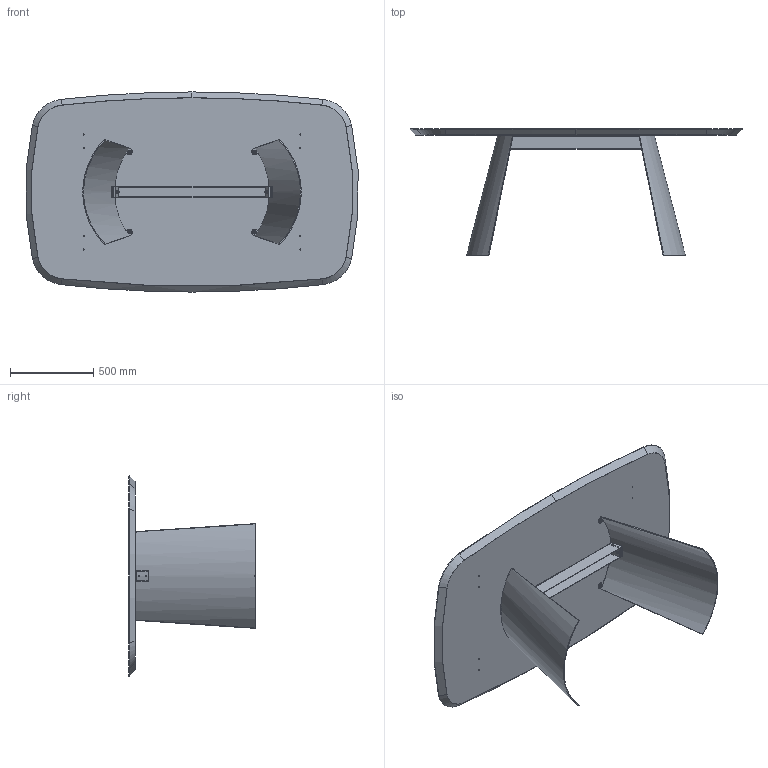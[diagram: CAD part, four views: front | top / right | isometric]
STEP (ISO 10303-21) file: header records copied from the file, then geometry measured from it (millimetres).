
FILE_DESCRIPTION (( 'STEP AP203' ), '1' );
FILE_NAME ('DN41W.STEP', '2024-08-07T15:04:48', ( '' ), ( '' ), 'SwSTEP 2.0', 'SolidWorks 2022', '' );
FILE_SCHEMA (( 'CONFIG_CONTROL_DESIGN' ));
Length unit declared in the file: millimetre
Products named in the file (14): rondella M8X24; feltro Ø12x3; GRANO M8X35_barra; M8xXXmm_M8x20mm; DN41W; DNB300000_03-02-PIASTRINA; SDNB300000-02-GAMBA X TRASP; rondella M8_8X16; DNB300000_01-02-GAMBA DORIAN; DNB400000-02-ASSIEME STRUTTURA COMPLETA_L.960; nut_M8_M8; DNBX00000-01-DORIAN TRAVERSO LXXXX PER TAVOLO LX00_L.970; W4XCMXX-00-Piani Sagomati legno_ 2000 x 1200; DNB300000_02-02-RISCONTRO STANGONE CENTRALE
Assembly tree (33 placements, depth 4):
  DN41W
    W4XCMXX-00-Piani Sagomati legno_ 2000 x 1200
    DNB400000-02-ASSIEME STRUTTURA COMPLETA_L.960
      SDNB300000-02-GAMBA X TRASP  x2
        DNB300000_01-02-GAMBA DORIAN
        DNB300000_02-02-RISCONTRO STANGONE CENTRALE
        DNB300000_03-02-PIASTRINA
      DNBX00000-01-DORIAN TRAVERSO LXXXX PER TAVOLO LX00_L.970
    GRANO M8X35_barra  x4
    rondella M8_8X16  x4
    nut_M8_M8  x4
    M8xXXmm_M8x20mm  x4
    rondella M8X24  x4
    feltro Ø12x3  x4
Bounding box: 1990.53 x 758 x 1200 mm (x, y, z)
Volume: 86964710.1 mm3; surface area: 6964187.2 mm2
Topology: 36 solids, 36 shells, 633 faces, 1458 edges, 879 vertices
Faces by surface type: plane 228, cylinder 169, cone 129, torus 89, bspline 18
Entity records: 11458 total; most frequent: CARTESIAN_POINT 2279, DIRECTION 1566, ORIENTED_EDGE 1428, EDGE_CURVE 714, AXIS2_PLACEMENT_3D 596, VERTEX_POINT 451, LINE 374, VECTOR 374
